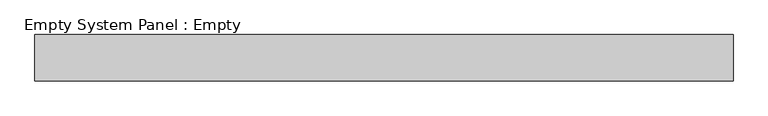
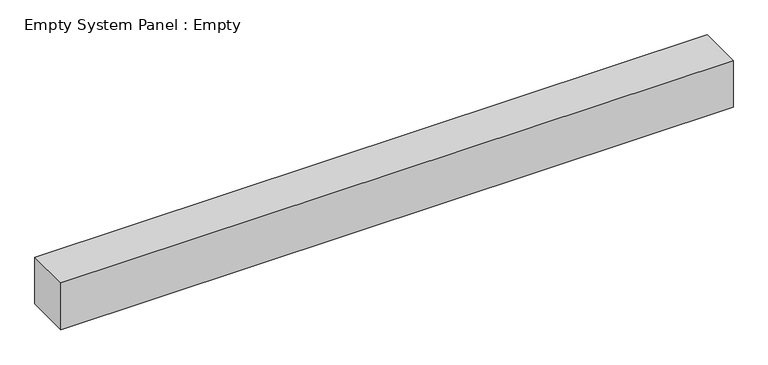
"""IFC4 building model written with IfcOpenShell, lengths in millimetres: plate geometry, Empty System Panel : Empty."""

import ifcopenshell
import ifcopenshell.guid

model = None  # the IFC model being written
_history = None  # IfcOwnerHistory: only IFC2X3 demands one
_inside = {}  # id of a spatial element -> (the spatial element, [elements in it])
_under = {}  # id of a project, library or spatial element -> (it, [spatial elements below it])
_declared = {}  # id of a project -> (the project, [libraries it declares])
_typed = {}  # id of a type object -> (the type object, [elements of that type])
_made_of = {}  # id of a material, layer set ... -> (it, [elements and type objects made of it])


def new_model(schema):
    """Start an empty IFC model of exactly this schema.

    Asked for "IFC4X3", IfcOpenShell would pick the latest addendum, in which some entities
    have other attributes; the version numbers below select the first issue.
    IFC2X3 requires an IfcOwnerHistory on every rooted entity: one is made here for all.
    """
    global model, _history
    if schema == "IFC4X3":
        model = ifcopenshell.file(schema_version=(4, 3, 0, 0))
    else:
        model = ifcopenshell.file(schema=schema)
    _inside.clear()
    _under.clear()
    _declared.clear()
    _typed.clear()
    _made_of.clear()
    _history = None
    if model.schema == "IFC2X3":
        org = make("IfcOrganization", Name="unknown")
        user = make(
            "IfcPersonAndOrganization",
            ThePerson=make("IfcPerson", FamilyName="unknown"),
            TheOrganization=org,
        )
        app = make(
            "IfcApplication",
            ApplicationDeveloper=org,
            Version="unknown",
            ApplicationFullName="unknown",
            ApplicationIdentifier="unknown",
        )
        _history = make(
            "IfcOwnerHistory",
            OwningUser=user,
            OwningApplication=app,
            ChangeAction="ADDED",
            CreationDate=0,
        )
    return model


def make(cls, **values):
    """One entity of the class cls with the attributes given. An attribute that is None is left unset."""
    return model.create_entity(
        cls, **{name: value for name, value in values.items() if value is not None}
    )


def rooted(cls, **values):
    """An entity with a GlobalId (a new one), such as an element, a storey or a relation."""
    return make(cls, GlobalId=ifcopenshell.guid.new(), OwnerHistory=_history, **values)


def si_unit(unit_type, name, prefix=None):
    """IfcSIUnit, for example si_unit("LENGTHUNIT", "METRE", prefix="MILLI")."""
    return make("IfcSIUnit", UnitType=unit_type, Prefix=prefix, Name=name)


def assignment(units):
    """IfcUnitAssignment: the units of a project."""
    return None if units is None else make("IfcUnitAssignment", Units=units)


def point(xyz):
    """IfcCartesianPoint."""
    return None if xyz is None else make("IfcCartesianPoint", Coordinates=xyz)


def direction(xyz):
    """IfcDirection."""
    return None if xyz is None else make("IfcDirection", DirectionRatios=xyz)


def frame(location, z_axis=None, x_axis=None):
    """IfcAxis2Placement3D, a coordinate frame: its origin and axes. An axis left out is left unset."""
    return make(
        "IfcAxis2Placement3D",
        Location=point(location),
        Axis=direction(z_axis),
        RefDirection=direction(x_axis),
    )


def origin():
    """The frame at (0, 0, 0) with its axes left unset."""
    return frame((0.0, 0.0, 0.0))


def origin_with_axes():
    """The frame at (0, 0, 0) with the z axis (0, 0, 1) and the x axis (1, 0, 0) written out."""
    return frame((0.0, 0.0, 0.0), z_axis=(0.0, 0.0, 1.0), x_axis=(1.0, 0.0, 0.0))


def place(relative_to, where):
    """IfcLocalPlacement: puts the frame where relative to a parent placement (None: the world)."""
    return make(
        "IfcLocalPlacement", PlacementRelTo=relative_to, RelativePlacement=where
    )


def context(
    kind, dimensions, precision=None, world=None, true_north=None, identifier=None
):
    """IfcGeometricRepresentationContext, for example the 3D "Model" context."""
    return make(
        "IfcGeometricRepresentationContext",
        ContextIdentifier=identifier,
        ContextType=kind,
        CoordinateSpaceDimension=dimensions,
        Precision=precision,
        WorldCoordinateSystem=world,
        TrueNorth=true_north,
    )


def project(units=None, contexts=None):
    """IfcProject with its units and contexts."""
    return rooted(
        "IfcProject",
        Name="project",
        RepresentationContexts=contexts,
        UnitsInContext=assignment(units),
    )


def spatial(cls, under=None, at=None, **own):
    """A site, building, storey or space (cls), placed at a placement, below another one or the project."""
    s = rooted(cls, ObjectPlacement=at, **own)
    if under is not None:
        _under.setdefault(under.id(), (under, []))[1].append(s)
    return s


def polyline(points):
    """IfcPolyline through the points."""
    return make("IfcPolyline", Points=[point(p) for p in points])


def outline(outer, holes=None, kind="AREA"):
    """IfcArbitraryClosedProfileDef: a profile drawn as a closed curve; with holes, ...WithVoids."""
    if holes is None:
        return make("IfcArbitraryClosedProfileDef", ProfileType=kind, OuterCurve=outer)
    return make(
        "IfcArbitraryProfileDefWithVoids",
        ProfileType=kind,
        OuterCurve=outer,
        InnerCurves=holes,
    )


def extrude(swept, where, along, depth):
    """IfcExtrudedAreaSolid: the profile swept, set in the frame where, extruded along a direction by depth."""
    return make(
        "IfcExtrudedAreaSolid",
        SweptArea=swept,
        Position=where,
        ExtrudedDirection=direction(along),
        Depth=depth,
    )


def shape(context_of_items, identifier, shape_type, items):
    """IfcShapeRepresentation: the items that make up one representation, for example the "Body"."""
    return make(
        "IfcShapeRepresentation",
        ContextOfItems=context_of_items,
        RepresentationIdentifier=identifier,
        RepresentationType=shape_type,
        Items=items,
    )


def source(mapping_origin, context_of_items, identifier, shape_type, items):
    """IfcRepresentationMap: a shape defined once, which mapped items show again and again."""
    return make(
        "IfcRepresentationMap",
        MappingOrigin=mapping_origin,
        MappedRepresentation=shape(context_of_items, identifier, shape_type, items),
    )


def transform(
    local_origin,
    x_axis=None,
    y_axis=None,
    z_axis=None,
    scale=None,
    scale2=None,
    scale3=None,
    uniform=True,
):
    """IfcCartesianTransformationOperator3D, or its non-uniform kind. x_axis, y_axis, z_axis: its Axis1, 2, 3."""
    if uniform:
        return make(
            "IfcCartesianTransformationOperator3D",
            Axis1=direction(x_axis),
            Axis2=direction(y_axis),
            LocalOrigin=point(local_origin),
            Scale=scale,
            Axis3=direction(z_axis),
        )
    return make(
        "IfcCartesianTransformationOperator3DnonUniform",
        Axis1=direction(x_axis),
        Axis2=direction(y_axis),
        LocalOrigin=point(local_origin),
        Scale=scale,
        Axis3=direction(z_axis),
        Scale2=scale2,
        Scale3=scale3,
    )


def mapped(mapping_source, mapping_target):
    """IfcMappedItem: shows the shape of a source again, moved by a transform."""
    return make(
        "IfcMappedItem", MappingSource=mapping_source, MappingTarget=mapping_target
    )


def made_of(thing, what):
    """Note that an element or type object is made of a material, layer set ...; save() writes the relation."""
    if what is not None:
        _made_of.setdefault(what.id(), (what, []))[1].append(thing)
    return thing


def element(
    cls,
    number,
    at=None,
    inside=None,
    cuts=None,
    type_object=None,
    material=None,
    context=None,
    identifier="Body",
    shape_type=None,
    held_by="IfcProductDefinitionShape",
    body=None,
    shapes=None,
    **own,
):
    """One element of the class cls, such as IfcWall. Its Tag is "e" and its number.

    at: its placement. inside: the storey or other place that contains it. cuts: it is an
    opening in that element (IfcRelVoidsElement). A single representation is given by context,
    identifier, shape_type and body (its items); several are given by shapes. held_by: the class
    of the entity that holds the representations. save() writes the other relations.
    """
    e = rooted(cls, Tag="e%d" % number, ObjectPlacement=at, **own)
    if body is not None:
        shapes = [shape(context, identifier, shape_type, body)]
    if shapes is not None:
        e.Representation = make(held_by, Representations=shapes)
    if inside is not None:
        _inside.setdefault(inside.id(), (inside, []))[1].append(e)
    if cuts is not None:
        rooted(
            "IfcRelVoidsElement", RelatingBuildingElement=cuts, RelatedOpeningElement=e
        )
    if type_object is not None:
        _typed.setdefault(type_object.id(), (type_object, []))[1].append(e)
    return made_of(e, material)


def aggregate(whole, parts):
    """IfcRelAggregates: a whole, such as a stair, and the parts it consists of."""
    return rooted("IfcRelAggregates", RelatingObject=whole, RelatedObjects=parts)


def save(model, path):
    """Write the relations noted so far, then the file.

    IfcRelAggregates (storeys below a building ...), IfcRelContainedInSpatialStructure (elements
    in a storey), IfcRelDefinesByType, IfcRelAssociatesMaterial and IfcRelDeclares: one each for
    every whole, place, type object, material and project.
    """
    for whole, parts in _under.values():
        aggregate(whole, parts)
    for where, things in _inside.values():
        rooted(
            "IfcRelContainedInSpatialStructure",
            RelatedElements=things,
            RelatingStructure=where,
        )
    for kind, things in _typed.values():
        rooted("IfcRelDefinesByType", RelatedObjects=things, RelatingType=kind)
    for what, things in _made_of.values():
        rooted("IfcRelAssociatesMaterial", RelatedObjects=things, RelatingMaterial=what)
    for by, libraries in _declared.values():
        rooted("IfcRelDeclares", RelatingContext=by, RelatedDefinitions=libraries)
    model.write(path)


def empty_system_panel_empty_a47fb649(model_context):
    return source(origin(), model_context, "Body", "SweptSolid", [
        extrude(outline(polyline([(750.0, -50.0), (-750.0, -50.0), (-750.0, 50.0), (750.0, 50.0), (750.0, -50.0)])), origin_with_axes(), (0.0, 0.0, 1.0), 110.5294373),
    ])


if __name__ == "__main__":
    model = new_model("IFC4")
    model_context = context("Model", 3, world=origin())
    ifc_project = project(units=[si_unit("LENGTHUNIT", "METRE", prefix="MILLI")], contexts=[model_context])
    site = spatial("IfcSite", under=ifc_project)
    building = spatial("IfcBuilding", under=site)
    placement = place(None, origin())
    empty_system_panel_empty_shape = empty_system_panel_empty_a47fb649(model_context)
    element("IfcPlate", 1, ObjectType="Empty System Panel : Empty", at=placement, inside=building, context=model_context, shape_type="MappedRepresentation", body=[
        mapped(empty_system_panel_empty_shape, transform((0.0, 0.0, 0.0), x_axis=(1.0, 0.0, 0.0), y_axis=(0.0, 1.0, 0.0), z_axis=(0.0, 0.0, 1.0))),
    ])
    save(model, "model.ifc")
